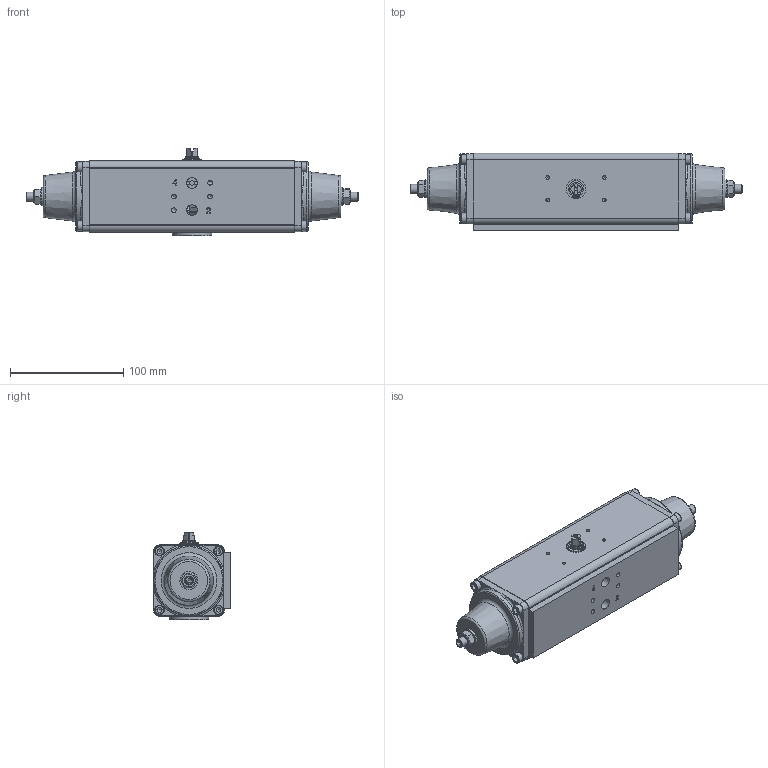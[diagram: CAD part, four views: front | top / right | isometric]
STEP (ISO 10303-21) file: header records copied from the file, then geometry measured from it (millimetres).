
FILE_DESCRIPTION((''),'2;1');
FILE_NAME('C:\Users\war\Desktop\SAF_05_180°.stp','2014-07-29T14:39:02',('war'),(''),'Autodesk Inventor 2013','Autodesk Inventor 2013','');
FILE_SCHEMA(('AUTOMOTIVE_DESIGN { 1 0 10303 214 1 1 1 1 }'));
Length unit declared in the file: millimetre
Products named in the file (1): ENG-071920
Bounding box: 293.77 x 68.5 x 77 mm (x, y, z)
Surface area: 112496 mm2 (no closed solid volume)
Topology: 0 solids, 30 shells, 281 faces, 927 edges, 647 vertices
Faces by surface type: plane 156, cylinder 55, cone 31, torus 23, bspline 16
Full cylindrical faces by diameter (mm): 3.242 x5, 3.5 x2, 4.134 x4, 4.917 x4, 8 x2, 8.5 x8, 9.525 x2, 11 x1, 16 x2, 17 x1, 18 x1, 20 x1, 35 x1, 45.9 x1, 46 x1, 62 x2
Entity records: 10649 total; most frequent: CARTESIAN_POINT 3006, DIRECTION 1435, ORIENTED_EDGE 1269, EDGE_CURVE 794, VERTEX_POINT 613, AXIS2_PLACEMENT_3D 514, VECTOR 407, LINE 407
